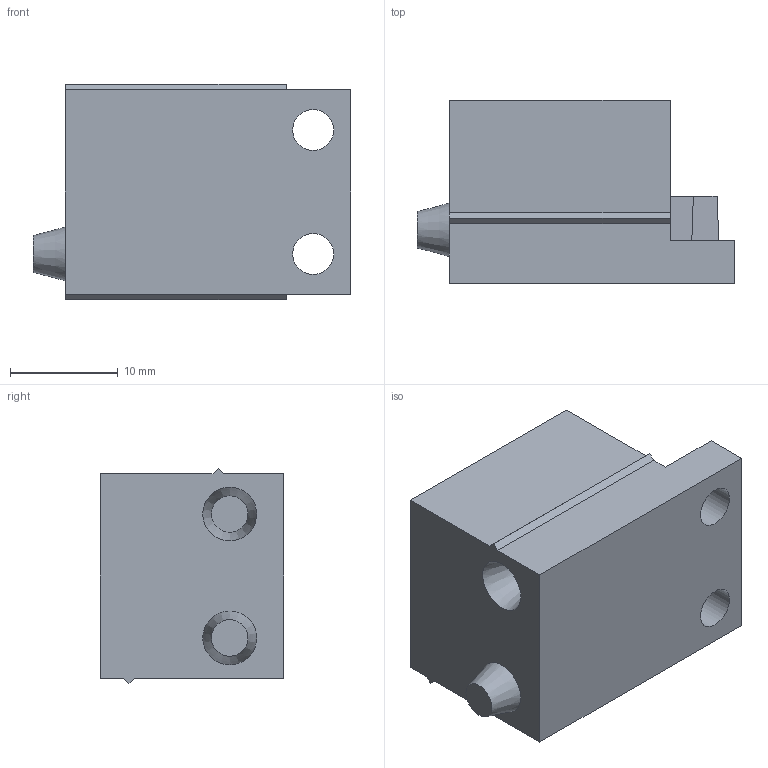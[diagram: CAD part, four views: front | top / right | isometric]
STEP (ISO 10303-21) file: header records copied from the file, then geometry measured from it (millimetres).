
FILE_DESCRIPTION(/* description */ ('STEP AP203'),/* implementation_level */ '2;1');
FILE_NAME(/* name */ '107840 TMS-STPG-GY',/* time_stamp */ '2024-10-04T14:23:24+02:00',/* author */ ('License CC BY-ND 4.0'),/* organization */ ('CADENAS'),/* preprocessor_version */ 'ST-DEVELOPER v19.3',/* originating_system */ 'PARTsolutions',/* authorisation */ ' ');
FILE_SCHEMA (('CONFIG_CONTROL_DESIGN'));
Length unit declared in the file: millimetre
Products named in the file (1): 107840 TMS-STPG-GY
Bounding box: 29.5 x 17 x 20 mm (x, y, z)
Volume: 7077.9 mm3; surface area: 2585.2 mm2
Topology: 1 solids, 1 shells, 28 faces, 72 edges, 48 vertices
Faces by surface type: plane 24, cone 2, cylinder 2
Full cylindrical faces by diameter (mm): 3.8 x2
Entity records: 862 total; most frequent: CARTESIAN_POINT 145, ORIENTED_EDGE 136, DIRECTION 134, EDGE_CURVE 68, LINE 60, VECTOR 60, VERTEX_POINT 48, EDGE_LOOP 38
